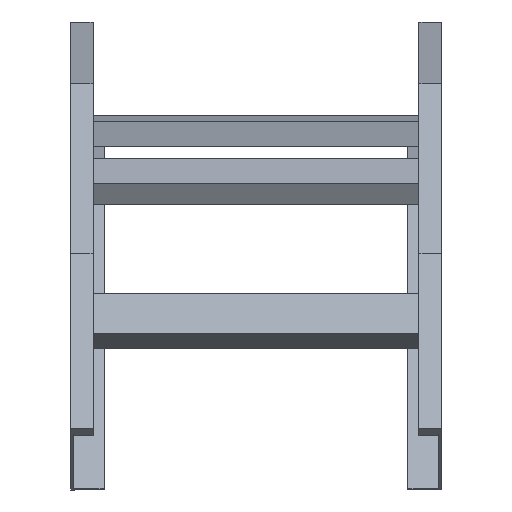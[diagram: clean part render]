
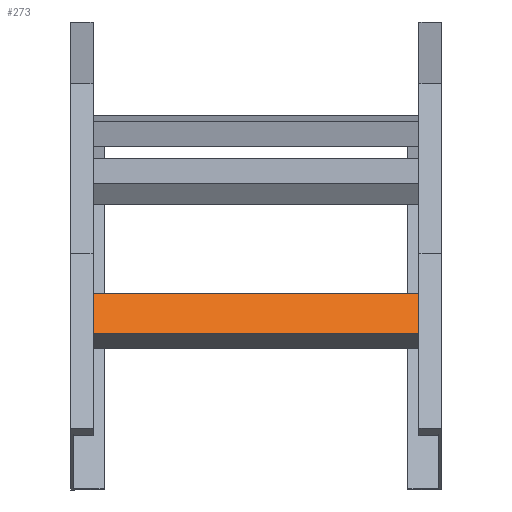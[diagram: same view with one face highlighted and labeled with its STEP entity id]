
A CAD part, top view. The second image highlights one B-rep face of the part: STEP entity #273.
In plain terms, the highlighted planar face has unit normal (0, 0.609, 0.793) as drawn and (0, 1, 0) by its records, which use the part's own axes.
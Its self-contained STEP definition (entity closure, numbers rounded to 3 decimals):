
#73 = DIRECTION ( 'NONE',  ( 0., 0., -1. ) ) ;
#120 = EDGE_CURVE ( 'NONE', #1557, #990, #1622, .T. ) ;
#147 = VERTEX_POINT ( 'NONE', #207 ) ;
#200 = LINE ( 'NONE', #875, #1004 ) ;
#207 = CARTESIAN_POINT ( 'NONE',  ( 148., 20., -20.25 ) ) ;
#219 = ORIENTED_EDGE ( 'NONE', *, *, #809, .F. ) ;
#249 = ORIENTED_EDGE ( 'NONE', *, *, #120, .F. ) ;
#273 = ADVANCED_FACE ( 'NONE', ( #1612 ), #1377, .F. ) ;
#337 = VERTEX_POINT ( 'NONE', #1385 ) ;
#370 = CARTESIAN_POINT ( 'NONE',  ( -148., 20., 20.25 ) ) ;
#375 = CARTESIAN_POINT ( 'NONE',  ( 148., 20., 20.25 ) ) ;
#544 = VECTOR ( 'NONE', #1445, 1000. ) ;
#600 = ORIENTED_EDGE ( 'NONE', *, *, #695, .T. ) ;
#695 = EDGE_CURVE ( 'NONE', #147, #337, #200, .T. ) ;
#733 = DIRECTION ( 'NONE',  ( -1., 0., 0. ) ) ;
#785 = LINE ( 'NONE', #911, #544 ) ;
#809 = EDGE_CURVE ( 'NONE', #147, #1557, #1186, .T. ) ;
#825 = AXIS2_PLACEMENT_3D ( 'NONE', #1359, #1515, #73 ) ;
#875 = CARTESIAN_POINT ( 'NONE',  ( 148., 20., -20.25 ) ) ;
#878 = EDGE_CURVE ( 'NONE', #337, #990, #785, .T. ) ;
#911 = CARTESIAN_POINT ( 'NONE',  ( -148., 20., 20.25 ) ) ;
#953 = EDGE_LOOP ( 'NONE', ( #988, #249, #219, #600 ) ) ;
#988 = ORIENTED_EDGE ( 'NONE', *, *, #878, .T. ) ;
#990 = VERTEX_POINT ( 'NONE', #370 ) ;
#1004 = VECTOR ( 'NONE', #733, 1000. ) ;
#1060 = CARTESIAN_POINT ( 'NONE',  ( 148., 20., 20.25 ) ) ;
#1107 = DIRECTION ( 'NONE',  ( -1., 0., 0. ) ) ;
#1186 = LINE ( 'NONE', #1060, #1367 ) ;
#1359 = CARTESIAN_POINT ( 'NONE',  ( 148., 20., 20.25 ) ) ;
#1361 = VECTOR ( 'NONE', #1107, 1000. ) ;
#1367 = VECTOR ( 'NONE', #1575, 1000. ) ;
#1377 = PLANE ( 'NONE',  #825 ) ;
#1385 = CARTESIAN_POINT ( 'NONE',  ( -148., 20., -20.25 ) ) ;
#1416 = CARTESIAN_POINT ( 'NONE',  ( 148., 20., 20.25 ) ) ;
#1445 = DIRECTION ( 'NONE',  ( 0., 0., 1. ) ) ;
#1515 = DIRECTION ( 'NONE',  ( 0., -1., 0. ) ) ;
#1557 = VERTEX_POINT ( 'NONE', #1416 ) ;
#1575 = DIRECTION ( 'NONE',  ( 0., 0., 1. ) ) ;
#1612 = FACE_OUTER_BOUND ( 'NONE', #953, .T. ) ;
#1622 = LINE ( 'NONE', #375, #1361 ) ;
